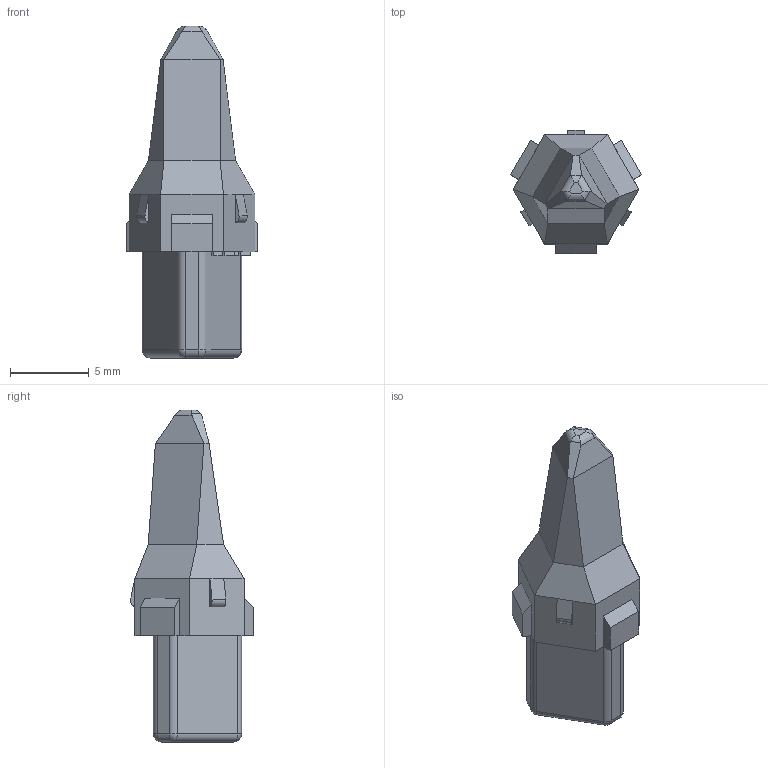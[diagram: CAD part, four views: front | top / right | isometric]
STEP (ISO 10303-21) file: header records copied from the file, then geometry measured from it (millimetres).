
FILE_DESCRIPTION((''),'2;1');
FILE_NAME('C-W3P-1939','2013-04-02T',('workeradm'),('Tyco Electronics Ltd.'),'PRO/ENGINEER BY PARAMETRIC TECHNOLOGY CORPORATION, 2011490','PRO/ENGINEER BY PARAMETRIC TECHNOLOGY CORPORATION, 2011490','');
FILE_SCHEMA(('AUTOMOTIVE_DESIGN { 1 0 10303 214 1 1 1 1 }'));
Length unit declared in the file: millimetre
Products named in the file (1): C-W3P-1939
Bounding box: 8.3 x 7.8 x 21.03 mm (x, y, z)
Volume: 476.6 mm3; surface area: 438.2 mm2
Topology: 1 solids, 1 shells, 114 faces, 280 edges, 171 vertices
Faces by surface type: plane 83, cylinder 23, sphere 6, torus 2
Entity records: 3623 total; most frequent: CARTESIAN_POINT 613, ORIENTED_EDGE 560, DIRECTION 537, EDGE_CURVE 280, VECTOR 227, LINE 227, VERTEX_POINT 171, AXIS2_PLACEMENT_3D 155
